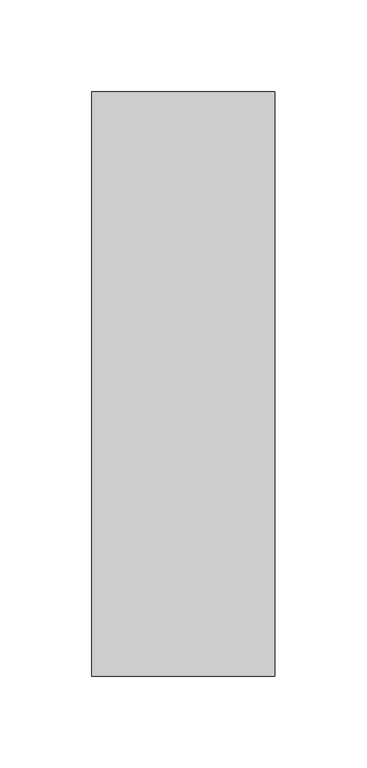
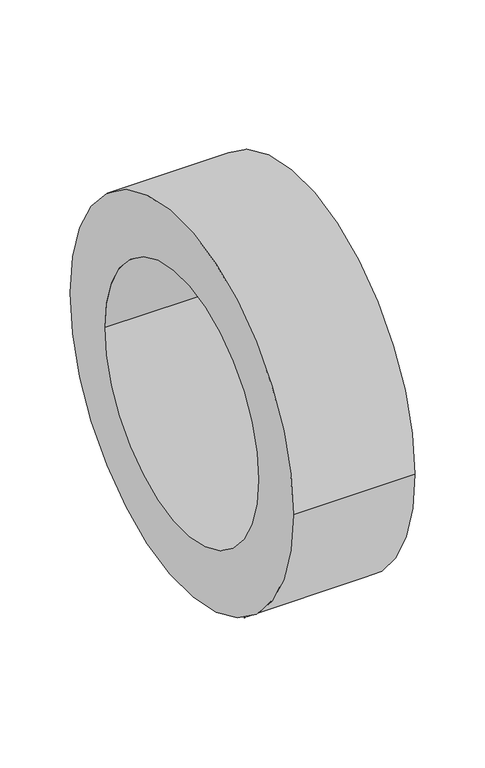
"""IFC4 building model written with IfcOpenShell, lengths in millimetres: pipe fitting geometry, СТ_Подвесы_ДляТруб_IsotermSM_D10-325_СимфонияТепла : Isoterm SM 50-219."""

from ifc_helpers import new_model, si_unit, point, frame, origin, origin_2d, place, context, project, spatial, circle_curve, trimmed, segment, composite_curve, outline, extrude, source, transform, mapped, element, save


def pipe_fitting_645a91ac(model_context):
    return source(origin(), model_context, "Body", "SweptSolid", [
        extrude(outline(composite_curve([segment(trimmed(circle_curve(origin_2d(), 159.5), [point((-159.5, 0.0))], [point((159.5, 0.0))], False, "CARTESIAN"), True, "CONTINUOUS"), segment(trimmed(circle_curve(origin_2d(), 159.5), [point((159.5, 0.0))], [point((-159.5, 0.0))], False, "CARTESIAN"), True, "CONTINUOUS")], self_intersect=False), holes=[composite_curve([segment(trimmed(circle_curve(origin_2d(), 109.5), [point((-109.5, 0.0))], [point((109.5, 0.0))], True, "CARTESIAN"), True, "CONTINUOUS"), segment(trimmed(circle_curve(origin_2d(), 109.5), [point((109.5, 0.0))], [point((-109.5, 0.0))], True, "CARTESIAN"), True, "CONTINUOUS")], self_intersect=False)]), frame((-50.0, 0.0, 0.0), z_axis=(1.0, 0.0, 0.0), x_axis=(0.0, 1.0, 0.0)), (0.0, 0.0, 1.0), 100.0),
    ])


if __name__ == "__main__":
    model = new_model("IFC4")
    model_context = context("Model", 3, world=origin())
    ifc_project = project(units=[si_unit("LENGTHUNIT", "METRE", prefix="MILLI")], contexts=[model_context])
    site = spatial("IfcSite", under=ifc_project)
    building = spatial("IfcBuilding", under=site)
    placement = place(None, origin())
    pipe_fitting_shape = pipe_fitting_645a91ac(model_context)
    element("IfcPipeFitting", 1, ObjectType="СТ_Подвесы_ДляТруб_IsotermSM_D10-325_СимфонияТепла : Isoterm SM 50-219", at=placement, inside=building, context=model_context, shape_type="MappedRepresentation", body=[
        mapped(pipe_fitting_shape, transform((0.0, 0.0, 0.0), x_axis=(1.0, 0.0, 0.0), y_axis=(0.0, 1.0, 0.0), z_axis=(0.0, 0.0, 1.0))),
    ])
    save(model, "model.ifc")
